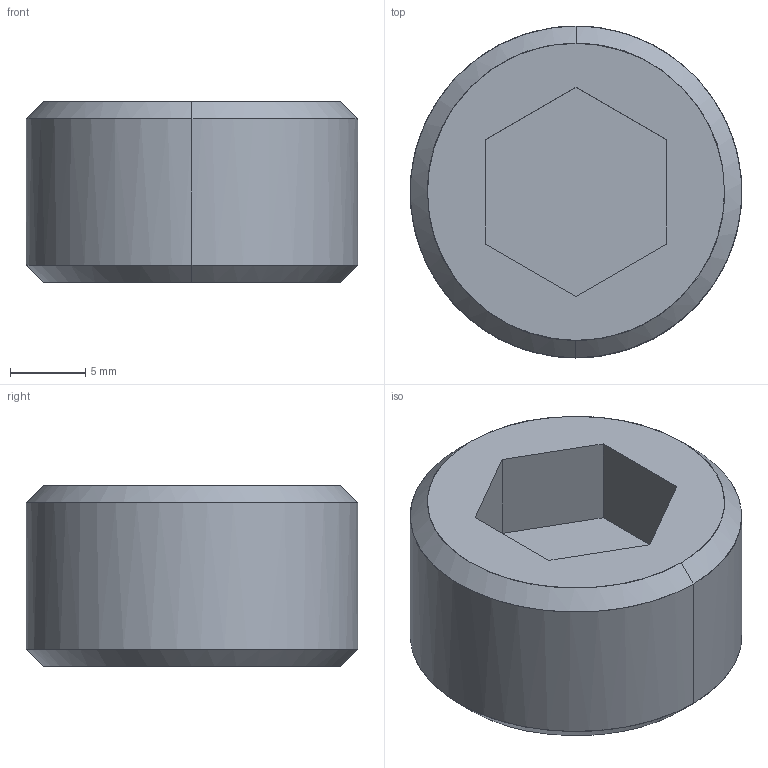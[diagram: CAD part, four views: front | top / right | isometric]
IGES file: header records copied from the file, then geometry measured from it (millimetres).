
Global section: file name: E:\UnigraphicsGraphicData\MISUMI_PRESS-PARTS\IGES\3d_msw22_00513_r00.igs; native system: NX V5.0; preprocessor: UGS NX IGES V5.0; author: MISUMI; date: 20110105.161522; units: millimetre
Bounding box: 21.97 x 22 x 12 mm (x, y, z)
Surface area: 1744.5 mm2 (no closed solid volume)
Topology: 0 solids, 0 shells, 15 faces, 76 edges, 76 vertices
Faces by surface type: bspline 15
